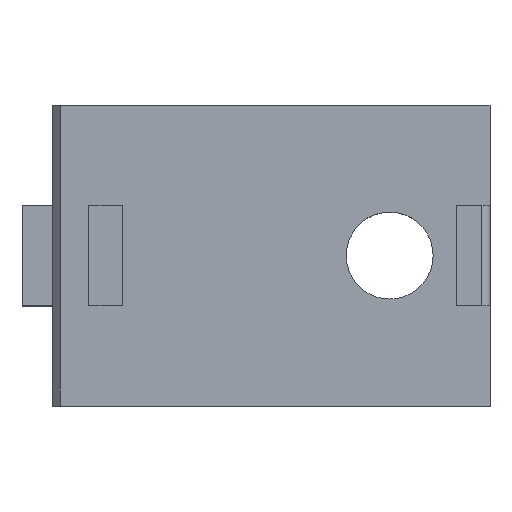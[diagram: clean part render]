
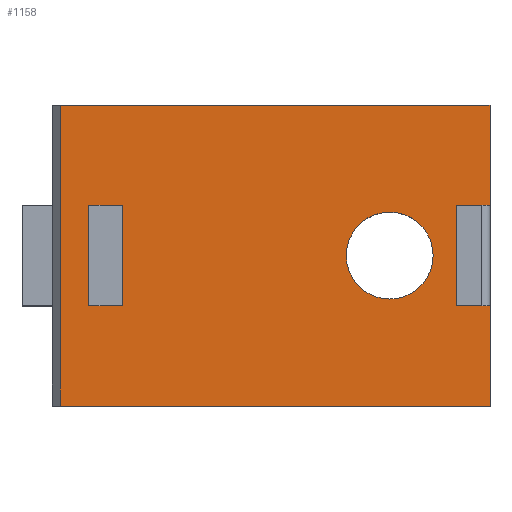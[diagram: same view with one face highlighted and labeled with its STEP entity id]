
A CAD part, top view. The second image highlights one B-rep face of the part: STEP entity #1158.
In plain terms, the highlighted planar face has unit normal (0, 0, 1).
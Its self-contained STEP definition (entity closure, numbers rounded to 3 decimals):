
#4 = DIRECTION ( 'NONE',  ( 0., 1., 0. ) ) ;
#12 = DIRECTION ( 'NONE',  ( 0., 1., 0. ) ) ;
#17 = VERTEX_POINT ( 'NONE', #1467 ) ;
#19 = ORIENTED_EDGE ( 'NONE', *, *, #114, .T. ) ;
#60 = EDGE_CURVE ( 'NONE', #751, #1416, #665, .T. ) ;
#72 = CARTESIAN_POINT ( 'NONE',  ( 0., 0., -1.8 ) ) ;
#87 = EDGE_CURVE ( 'NONE', #1568, #874, #468, .T. ) ;
#90 = PLANE ( 'NONE',  #900 ) ;
#104 = DIRECTION ( 'NONE',  ( 0., -1., 0. ) ) ;
#107 = VECTOR ( 'NONE', #1206, 1000. ) ;
#114 = EDGE_CURVE ( 'NONE', #1416, #751, #508, .T. ) ;
#115 = VERTEX_POINT ( 'NONE', #1213 ) ;
#117 = CARTESIAN_POINT ( 'NONE',  ( 26., 18., -1.8 ) ) ;
#120 = CARTESIAN_POINT ( 'NONE',  ( 19.4, 9., -1.8 ) ) ;
#125 = EDGE_CURVE ( 'NONE', #150, #1524, #1342, .T. ) ;
#150 = VERTEX_POINT ( 'NONE', #995 ) ;
#157 = EDGE_LOOP ( 'NONE', ( #392, #1472, #709, #1306, #1272, #947, #912, #866 ) ) ;
#174 = CARTESIAN_POINT ( 'NONE',  ( 28., 18., -1.8 ) ) ;
#177 = EDGE_CURVE ( 'NONE', #115, #150, #1231, .T. ) ;
#190 = DIRECTION ( 'NONE',  ( 0., -1., 0. ) ) ;
#202 = DIRECTION ( 'NONE',  ( 0., 1., 0. ) ) ;
#220 = DIRECTION ( 'NONE',  ( 1., 0., 0. ) ) ;
#257 = CARTESIAN_POINT ( 'NONE',  ( 28., 12., -1.8 ) ) ;
#283 = ORIENTED_EDGE ( 'NONE', *, *, #984, .F. ) ;
#287 = CARTESIAN_POINT ( 'NONE',  ( 0., 18., -1.8 ) ) ;
#295 = VERTEX_POINT ( 'NONE', #840 ) ;
#317 = CARTESIAN_POINT ( 'NONE',  ( 2.3, 18., -1.8 ) ) ;
#338 = CARTESIAN_POINT ( 'NONE',  ( 28., 0., -1.8 ) ) ;
#355 = LINE ( 'NONE', #1240, #1268 ) ;
#371 = VECTOR ( 'NONE', #202, 1000. ) ;
#392 = ORIENTED_EDGE ( 'NONE', *, *, #1559, .F. ) ;
#410 = DIRECTION ( 'NONE',  ( 1., 0., 0. ) ) ;
#427 = LINE ( 'NONE', #1186, #107 ) ;
#468 = LINE ( 'NONE', #1487, #1392 ) ;
#474 = CARTESIAN_POINT ( 'NONE',  ( 4., 18., -1.8 ) ) ;
#484 = VERTEX_POINT ( 'NONE', #627 ) ;
#497 = EDGE_CURVE ( 'NONE', #1431, #1563, #1430, .T. ) ;
#508 = CIRCLE ( 'NONE', #1190, 2.6 ) ;
#529 = VECTOR ( 'NONE', #1009, 1000. ) ;
#536 = CARTESIAN_POINT ( 'NONE',  ( 4., 12., -1.8 ) ) ;
#541 = CARTESIAN_POINT ( 'NONE',  ( 28., 0., -1.8 ) ) ;
#576 = EDGE_CURVE ( 'NONE', #874, #17, #355, .T. ) ;
#592 = ORIENTED_EDGE ( 'NONE', *, *, #60, .T. ) ;
#627 = CARTESIAN_POINT ( 'NONE',  ( 4., 6., -1.8 ) ) ;
#629 = CARTESIAN_POINT ( 'NONE',  ( 22., 9., -1.8 ) ) ;
#638 = DIRECTION ( 'NONE',  ( 0., 0., -1. ) ) ;
#665 = CIRCLE ( 'NONE', #704, 2.6 ) ;
#670 = EDGE_LOOP ( 'NONE', ( #283, #1477, #712, #999 ) ) ;
#678 = EDGE_CURVE ( 'NONE', #700, #1524, #844, .T. ) ;
#689 = LINE ( 'NONE', #174, #371 ) ;
#700 = VERTEX_POINT ( 'NONE', #338 ) ;
#704 = AXIS2_PLACEMENT_3D ( 'NONE', #629, #638, #12 ) ;
#709 = ORIENTED_EDGE ( 'NONE', *, *, #1139, .T. ) ;
#711 = VECTOR ( 'NONE', #872, 1000. ) ;
#712 = ORIENTED_EDGE ( 'NONE', *, *, #576, .T. ) ;
#741 = VECTOR ( 'NONE', #1181, 1000. ) ;
#748 = VERTEX_POINT ( 'NONE', #257 ) ;
#751 = VERTEX_POINT ( 'NONE', #120 ) ;
#762 = FACE_OUTER_BOUND ( 'NONE', #157, .T. ) ;
#768 = EDGE_CURVE ( 'NONE', #748, #295, #689, .T. ) ;
#772 = CARTESIAN_POINT ( 'NONE',  ( 0., 18., -1.8 ) ) ;
#787 = VECTOR ( 'NONE', #104, 1000. ) ;
#800 = VECTOR ( 'NONE', #410, 1000. ) ;
#815 = CARTESIAN_POINT ( 'NONE',  ( 2.3, 18., -1.8 ) ) ;
#840 = CARTESIAN_POINT ( 'NONE',  ( 28., 18., -1.8 ) ) ;
#844 = LINE ( 'NONE', #541, #529 ) ;
#861 = VECTOR ( 'NONE', #220, 1000. ) ;
#866 = ORIENTED_EDGE ( 'NONE', *, *, #768, .T. ) ;
#872 = DIRECTION ( 'NONE',  ( 1., 0., 0. ) ) ;
#874 = VERTEX_POINT ( 'NONE', #1512 ) ;
#883 = CARTESIAN_POINT ( 'NONE',  ( 22., 9., -1.8 ) ) ;
#893 = EDGE_CURVE ( 'NONE', #484, #17, #1178, .T. ) ;
#900 = AXIS2_PLACEMENT_3D ( 'NONE', #287, #1020, #4 ) ;
#906 = LINE ( 'NONE', #474, #741 ) ;
#912 = ORIENTED_EDGE ( 'NONE', *, *, #993, .T. ) ;
#922 = LINE ( 'NONE', #72, #1196 ) ;
#947 = ORIENTED_EDGE ( 'NONE', *, *, #177, .F. ) ;
#982 = DIRECTION ( 'NONE',  ( 0., 1., 0. ) ) ;
#984 = EDGE_CURVE ( 'NONE', #1568, #484, #906, .T. ) ;
#989 = DIRECTION ( 'NONE',  ( 0., 0., -1. ) ) ;
#993 = EDGE_CURVE ( 'NONE', #115, #748, #427, .T. ) ;
#995 = CARTESIAN_POINT ( 'NONE',  ( 26., 6., -1.8 ) ) ;
#999 = ORIENTED_EDGE ( 'NONE', *, *, #893, .F. ) ;
#1009 = DIRECTION ( 'NONE',  ( 0., 1., 0. ) ) ;
#1020 = DIRECTION ( 'NONE',  ( 0., 0., -1. ) ) ;
#1039 = CARTESIAN_POINT ( 'NONE',  ( 0., 6., -1.8 ) ) ;
#1079 = EDGE_LOOP ( 'NONE', ( #592, #19 ) ) ;
#1084 = FACE_BOUND ( 'NONE', #670, .T. ) ;
#1117 = LINE ( 'NONE', #772, #800 ) ;
#1139 = EDGE_CURVE ( 'NONE', #1563, #700, #922, .T. ) ;
#1158 = ADVANCED_FACE ( 'NONE', ( #1409, #1084, #762 ), #90, .F. ) ;
#1178 = LINE ( 'NONE', #1588, #861 ) ;
#1181 = DIRECTION ( 'NONE',  ( 0., -1., 0. ) ) ;
#1186 = CARTESIAN_POINT ( 'NONE',  ( 0., 12., -1.8 ) ) ;
#1190 = AXIS2_PLACEMENT_3D ( 'NONE', #883, #989, #982 ) ;
#1196 = VECTOR ( 'NONE', #1238, 1000. ) ;
#1206 = DIRECTION ( 'NONE',  ( 1., 0., 0. ) ) ;
#1213 = CARTESIAN_POINT ( 'NONE',  ( 26., 12., -1.8 ) ) ;
#1231 = LINE ( 'NONE', #117, #1271 ) ;
#1235 = DIRECTION ( 'NONE',  ( 0., -1., 0. ) ) ;
#1237 = CARTESIAN_POINT ( 'NONE',  ( 28., 6., -1.8 ) ) ;
#1238 = DIRECTION ( 'NONE',  ( 1., 0., 0. ) ) ;
#1240 = CARTESIAN_POINT ( 'NONE',  ( 6., 18., -1.8 ) ) ;
#1268 = VECTOR ( 'NONE', #1235, 1000. ) ;
#1271 = VECTOR ( 'NONE', #190, 1000. ) ;
#1272 = ORIENTED_EDGE ( 'NONE', *, *, #125, .F. ) ;
#1306 = ORIENTED_EDGE ( 'NONE', *, *, #678, .T. ) ;
#1342 = LINE ( 'NONE', #1039, #711 ) ;
#1392 = VECTOR ( 'NONE', #1511, 1000. ) ;
#1409 = FACE_BOUND ( 'NONE', #1079, .T. ) ;
#1416 = VERTEX_POINT ( 'NONE', #1535 ) ;
#1430 = LINE ( 'NONE', #317, #787 ) ;
#1431 = VERTEX_POINT ( 'NONE', #815 ) ;
#1467 = CARTESIAN_POINT ( 'NONE',  ( 6., 6., -1.8 ) ) ;
#1472 = ORIENTED_EDGE ( 'NONE', *, *, #497, .T. ) ;
#1477 = ORIENTED_EDGE ( 'NONE', *, *, #87, .T. ) ;
#1487 = CARTESIAN_POINT ( 'NONE',  ( 0., 12., -1.8 ) ) ;
#1509 = CARTESIAN_POINT ( 'NONE',  ( 2.3, 0., -1.8 ) ) ;
#1511 = DIRECTION ( 'NONE',  ( 1., 0., 0. ) ) ;
#1512 = CARTESIAN_POINT ( 'NONE',  ( 6., 12., -1.8 ) ) ;
#1524 = VERTEX_POINT ( 'NONE', #1237 ) ;
#1535 = CARTESIAN_POINT ( 'NONE',  ( 24.6, 9., -1.8 ) ) ;
#1559 = EDGE_CURVE ( 'NONE', #1431, #295, #1117, .T. ) ;
#1563 = VERTEX_POINT ( 'NONE', #1509 ) ;
#1568 = VERTEX_POINT ( 'NONE', #536 ) ;
#1588 = CARTESIAN_POINT ( 'NONE',  ( 0., 6., -1.8 ) ) ;
